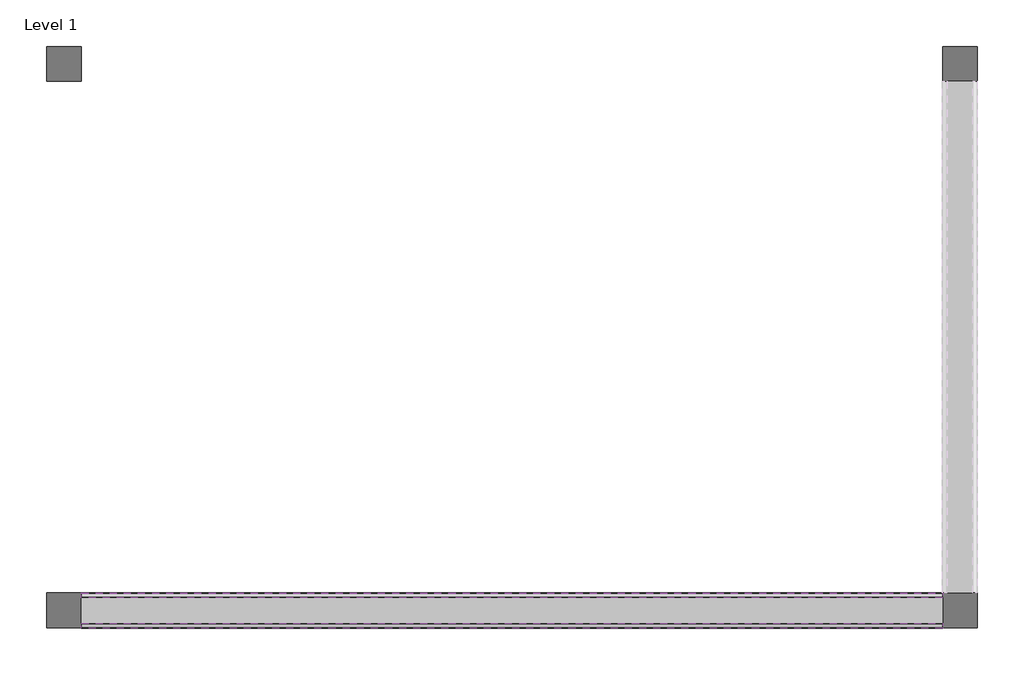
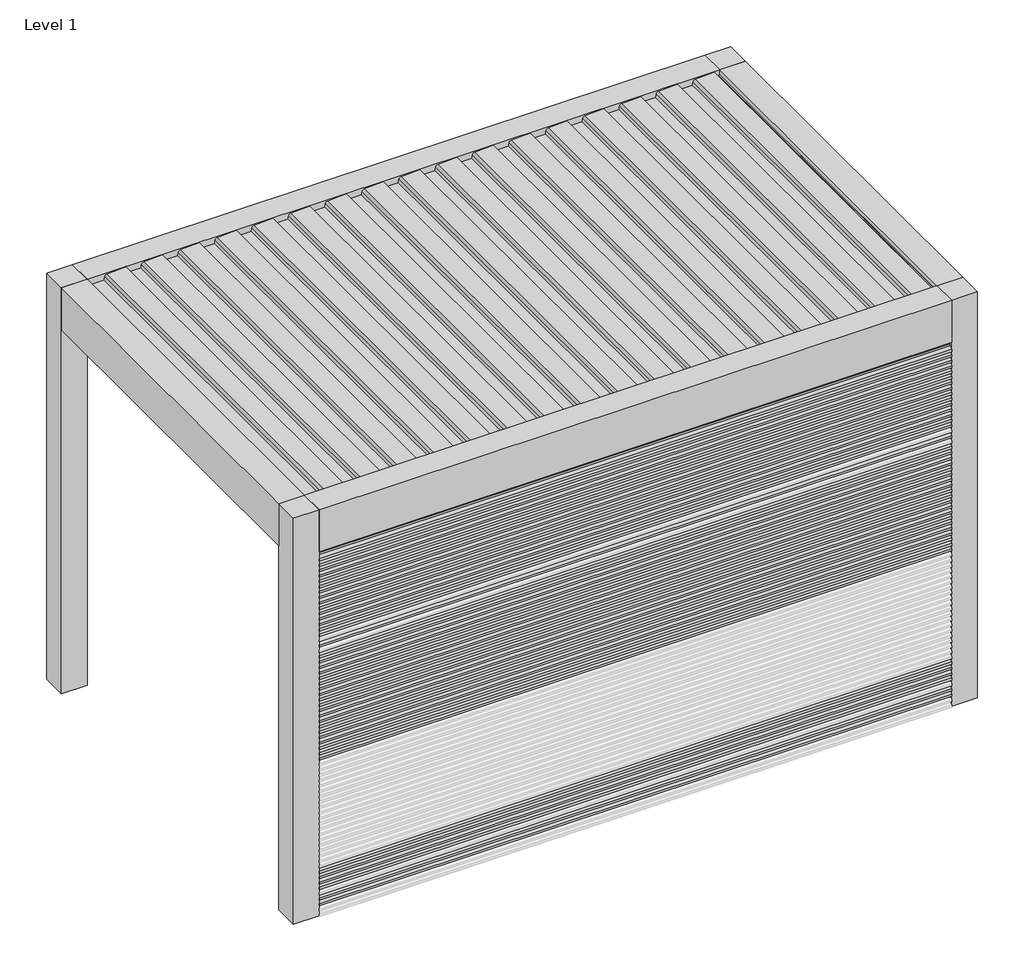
# One storey, part 65 of 69: 85 proxies.
"""IFC4 building model written with IfcOpenShell, lengths in millimetres."""

from ifc_helpers import new_model, si_unit, frame, origin, place, context, project, spatial, polyline, outline, extrude, transform, mapped, element, save
from components import generic_models_9b0df196

model = new_model("IFC4")

# Units and contexts
model_context = context("Model", 3, world=origin())
ifc_project = project(units=[si_unit("LENGTHUNIT", "METRE", prefix="MILLI")], contexts=[model_context])

# Site, building, storey
site = spatial("IfcSite", under=ifc_project)
building = spatial("IfcBuilding", under=site)
storey = spatial("IfcBuildingStorey", under=building, Name="Level 1", Elevation=0.0)

# Proxies
placement = place(None, origin())
element("IfcBuildingElementProxy", 1, Name="Wall Sweeps", at=placement, inside=storey, context=model_context, shape_type="SweptSolid", body=[
    extrude(outline(polyline([(39520.7593685, 975.0), (39539.9093685, 986.0562577), (39539.9093685, 999.0), (39541.1593685, 999.0), (39541.1593685, 985.3345698), (39522.0093685, 974.2782281), (39522.0093685, 962.2216933), (39520.7593685, 961.5), (39520.7593685, 975.0)])), frame((224550.5749426, 0.0, 0.0), z_axis=(1.0, 0.0, 0.0), x_axis=(0.0, 1.0, 0.0)), (0.0, 0.0, 1.0), 3700.0),
])
element("IfcBuildingElementProxy", 2, Name="Wall Sweeps", at=placement, inside=storey, context=model_context, shape_type="SweptSolid", body=[
    extrude(outline(polyline([(39672.5593685, 975.9), (39672.5593685, 962.4), (39671.3093685, 963.1216933), (39671.3093685, 975.1782281), (39652.1593685, 986.2345698), (39652.1593685, 999.9), (39653.4093685, 999.9), (39653.4093685, 986.9562577), (39672.5593685, 975.9)])), frame((224550.5749426, 0.0, 0.0), z_axis=(1.0, 0.0, 0.0), x_axis=(0.0, 1.0, 0.0)), (0.0, 0.0, 1.0), 3700.0),
])
element("IfcBuildingElementProxy", 3, Name="Wall Sweeps", at=placement, inside=storey, context=model_context, shape_type="SweptSolid", body=[
    extrude(outline(polyline([(39520.7593685, 76.0), (39539.9093685, 87.0562577), (39539.9093685, 100.0), (39541.1593685, 100.0), (39541.1593685, 86.3345698), (39522.0093685, 75.2782281), (39522.0093685, 63.2216933), (39520.7593685, 62.5), (39520.7593685, 76.0)])), frame((224550.5749426, 0.0, 0.0), z_axis=(1.0, 0.0, 0.0), x_axis=(0.0, 1.0, 0.0)), (0.0, 0.0, 1.0), 3700.0),
])
element("IfcBuildingElementProxy", 4, Name="Wall Sweeps", at=placement, inside=storey, context=model_context, shape_type="SweptSolid", body=[
    extrude(outline(polyline([(39672.5593685, 76.0), (39672.5593685, 62.5), (39671.3093685, 63.2216933), (39671.3093685, 75.2782281), (39652.1593685, 86.3345698), (39652.1593685, 100.0), (39653.4093685, 100.0), (39653.4093685, 87.0562577), (39672.5593685, 76.0)])), frame((224550.5749426, 0.0, 0.0), z_axis=(1.0, 0.0, 0.0), x_axis=(0.0, 1.0, 0.0)), (0.0, 0.0, 1.0), 3700.0),
])
element("IfcBuildingElementProxy", 5, Name="Wall Sweeps", at=placement, inside=storey, context=model_context, shape_type="SweptSolid", body=[
    extrude(outline(polyline([(39520.7593685, 1008.3), (39539.9093685, 1019.3562577), (39539.9093685, 1032.3), (39541.1593685, 1032.3), (39541.1593685, 1018.6345698), (39522.0093685, 1007.5782281), (39522.0093685, 995.5216933), (39520.7593685, 994.8), (39520.7593685, 1008.3)])), frame((224550.5749426, 0.0, 0.0), z_axis=(1.0, 0.0, 0.0), x_axis=(0.0, 1.0, 0.0)), (0.0, 0.0, 1.0), 3700.0),
])
element("IfcBuildingElementProxy", 6, Name="Wall Sweeps", at=placement, inside=storey, context=model_context, shape_type="SweptSolid", body=[
    extrude(outline(polyline([(39672.5593685, 1009.2), (39672.5593685, 995.7), (39671.3093685, 996.4216933), (39671.3093685, 1008.4782281), (39652.1593685, 1019.5345698), (39652.1593685, 1033.2), (39653.4093685, 1033.2), (39653.4093685, 1020.2562577), (39672.5593685, 1009.2)])), frame((224550.5749426, 0.0, 0.0), z_axis=(1.0, 0.0, 0.0), x_axis=(0.0, 1.0, 0.0)), (0.0, 0.0, 1.0), 3700.0),
])
element("IfcBuildingElementProxy", 7, Name="Wall Sweeps", at=placement, inside=storey, context=model_context, shape_type="SweptSolid", body=[
    extrude(outline(polyline([(39520.7593685, 1041.6), (39539.9093685, 1052.6562577), (39539.9093685, 1065.6), (39541.1593685, 1065.6), (39541.1593685, 1051.9345698), (39522.0093685, 1040.8782281), (39522.0093685, 1028.8216933), (39520.7593685, 1028.1), (39520.7593685, 1041.6)])), frame((224550.5749426, 0.0, 0.0), z_axis=(1.0, 0.0, 0.0), x_axis=(0.0, 1.0, 0.0)), (0.0, 0.0, 1.0), 3700.0),
])
element("IfcBuildingElementProxy", 8, Name="Wall Sweeps", at=placement, inside=storey, context=model_context, shape_type="SweptSolid", body=[
    extrude(outline(polyline([(39672.5593685, 1042.6), (39672.5593685, 1029.1), (39671.3093685, 1029.8216933), (39671.3093685, 1041.8782281), (39652.1593685, 1052.9345698), (39652.1593685, 1066.6), (39653.4093685, 1066.6), (39653.4093685, 1053.6562577), (39672.5593685, 1042.6)])), frame((224550.5749426, 0.0, 0.0), z_axis=(1.0, 0.0, 0.0), x_axis=(0.0, 1.0, 0.0)), (0.0, 0.0, 1.0), 3700.0),
])
element("IfcBuildingElementProxy", 9, Name="Wall Sweeps", at=placement, inside=storey, context=model_context, shape_type="SweptSolid", body=[
    extrude(outline(polyline([(39520.7593685, 1074.9), (39539.9093685, 1085.9562577), (39539.9093685, 1098.9), (39541.1593685, 1098.9), (39541.1593685, 1085.2345698), (39522.0093685, 1074.1782281), (39522.0093685, 1062.1216933), (39520.7593685, 1061.4), (39520.7593685, 1074.9)])), frame((224550.5749426, 0.0, 0.0), z_axis=(1.0, 0.0, 0.0), x_axis=(0.0, 1.0, 0.0)), (0.0, 0.0, 1.0), 3700.0),
])
element("IfcBuildingElementProxy", 10, Name="Wall Sweeps", at=placement, inside=storey, context=model_context, shape_type="SweptSolid", body=[
    extrude(outline(polyline([(39520.7593685, 1108.2), (39539.9093685, 1119.2562577), (39539.9093685, 1132.2), (39541.1593685, 1132.2), (39541.1593685, 1118.5345698), (39522.0093685, 1107.4782281), (39522.0093685, 1095.4216933), (39520.7593685, 1094.7), (39520.7593685, 1108.2)])), frame((224550.5749426, 0.0, 0.0), z_axis=(1.0, 0.0, 0.0), x_axis=(0.0, 1.0, 0.0)), (0.0, 0.0, 1.0), 3700.0),
])
element("IfcBuildingElementProxy", 11, Name="Wall Sweeps", at=placement, inside=storey, context=model_context, shape_type="SweptSolid", body=[
    extrude(outline(polyline([(39672.5593685, 1109.2), (39672.5593685, 1095.7), (39671.3093685, 1096.4216933), (39671.3093685, 1108.4782281), (39652.1593685, 1119.5345698), (39652.1593685, 1133.2), (39653.4093685, 1133.2), (39653.4093685, 1120.2562577), (39672.5593685, 1109.2)])), frame((224550.5749426, 0.0, 0.0), z_axis=(1.0, 0.0, 0.0), x_axis=(0.0, 1.0, 0.0)), (0.0, 0.0, 1.0), 3700.0),
])
element("IfcBuildingElementProxy", 12, Name="Wall Sweeps", at=placement, inside=storey, context=model_context, shape_type="SweptSolid", body=[
    extrude(outline(polyline([(39520.7593685, 1141.5), (39539.9093685, 1152.5562577), (39539.9093685, 1165.5), (39541.1593685, 1165.5), (39541.1593685, 1151.8345698), (39522.0093685, 1140.7782281), (39522.0093685, 1128.7216933), (39520.7593685, 1128.0), (39520.7593685, 1141.5)])), frame((224550.5749426, 0.0, 0.0), z_axis=(1.0, 0.0, 0.0), x_axis=(0.0, 1.0, 0.0)), (0.0, 0.0, 1.0), 3700.0),
])
element("IfcBuildingElementProxy", 13, Name="Wall Sweeps", at=placement, inside=storey, context=model_context, shape_type="SweptSolid", body=[
    extrude(outline(polyline([(39672.5593685, 1142.6), (39672.5593685, 1129.1), (39671.3093685, 1129.8216933), (39671.3093685, 1141.8782281), (39652.1593685, 1152.9345698), (39652.1593685, 1166.6), (39653.4093685, 1166.6), (39653.4093685, 1153.6562577), (39672.5593685, 1142.6)])), frame((224550.5749426, 0.0, 0.0), z_axis=(1.0, 0.0, 0.0), x_axis=(0.0, 1.0, 0.0)), (0.0, 0.0, 1.0), 3700.0),
])
element("IfcBuildingElementProxy", 14, Name="Wall Sweeps", at=placement, inside=storey, context=model_context, shape_type="SweptSolid", body=[
    extrude(outline(polyline([(39520.7593685, 1174.8), (39539.9093685, 1185.8562577), (39539.9093685, 1198.8), (39541.1593685, 1198.8), (39541.1593685, 1185.1345698), (39522.0093685, 1174.0782281), (39522.0093685, 1162.0216933), (39520.7593685, 1161.3), (39520.7593685, 1174.8)])), frame((224550.5749426, 0.0, 0.0), z_axis=(1.0, 0.0, 0.0), x_axis=(0.0, 1.0, 0.0)), (0.0, 0.0, 1.0), 3700.0),
])
element("IfcBuildingElementProxy", 15, Name="Wall Sweeps", at=placement, inside=storey, context=model_context, shape_type="SweptSolid", body=[
    extrude(outline(polyline([(39672.5593685, 1175.9), (39672.5593685, 1162.4), (39671.3093685, 1163.1216933), (39671.3093685, 1175.1782281), (39652.1593685, 1186.2345698), (39652.1593685, 1199.9), (39653.4093685, 1199.9), (39653.4093685, 1186.9562577), (39672.5593685, 1175.9)])), frame((224550.5749426, 0.0, 0.0), z_axis=(1.0, 0.0, 0.0), x_axis=(0.0, 1.0, 0.0)), (0.0, 0.0, 1.0), 3700.0),
])
element("IfcBuildingElementProxy", 16, Name="Wall Sweeps", at=placement, inside=storey, context=model_context, shape_type="SweptSolid", body=[
    extrude(outline(polyline([(39520.7593685, 1208.1), (39539.9093685, 1219.1562577), (39539.9093685, 1232.1), (39541.1593685, 1232.1), (39541.1593685, 1218.4345698), (39522.0093685, 1207.3782281), (39522.0093685, 1195.3216933), (39520.7593685, 1194.6), (39520.7593685, 1208.1)])), frame((224550.5749426, 0.0, 0.0), z_axis=(1.0, 0.0, 0.0), x_axis=(0.0, 1.0, 0.0)), (0.0, 0.0, 1.0), 3700.0),
])
element("IfcBuildingElementProxy", 17, Name="Wall Sweeps", at=placement, inside=storey, context=model_context, shape_type="SweptSolid", body=[
    extrude(outline(polyline([(39672.5593685, 1209.2), (39672.5593685, 1195.7), (39671.3093685, 1196.4216933), (39671.3093685, 1208.4782281), (39652.1593685, 1219.5345698), (39652.1593685, 1233.2), (39653.4093685, 1233.2), (39653.4093685, 1220.2562577), (39672.5593685, 1209.2)])), frame((224550.5749426, 0.0, 0.0), z_axis=(1.0, 0.0, 0.0), x_axis=(0.0, 1.0, 0.0)), (0.0, 0.0, 1.0), 3700.0),
])
element("IfcBuildingElementProxy", 18, Name="Wall Sweeps", at=placement, inside=storey, context=model_context, shape_type="SweptSolid", body=[
    extrude(outline(polyline([(39520.7593685, 1241.4), (39539.9093685, 1252.4562577), (39539.9093685, 1265.4), (39541.1593685, 1265.4), (39541.1593685, 1251.7345698), (39522.0093685, 1240.6782281), (39522.0093685, 1228.6216933), (39520.7593685, 1227.9), (39520.7593685, 1241.4)])), frame((224550.5749426, 0.0, 0.0), z_axis=(1.0, 0.0, 0.0), x_axis=(0.0, 1.0, 0.0)), (0.0, 0.0, 1.0), 3700.0),
])
element("IfcBuildingElementProxy", 19, Name="Wall Sweeps", at=placement, inside=storey, context=model_context, shape_type="SweptSolid", body=[
    extrude(outline(polyline([(39672.5593685, 1242.5), (39672.5593685, 1229.0), (39671.3093685, 1229.7216933), (39671.3093685, 1241.7782281), (39652.1593685, 1252.8345698), (39652.1593685, 1266.5), (39653.4093685, 1266.5), (39653.4093685, 1253.5562577), (39672.5593685, 1242.5)])), frame((224550.5749426, 0.0, 0.0), z_axis=(1.0, 0.0, 0.0), x_axis=(0.0, 1.0, 0.0)), (0.0, 0.0, 1.0), 3700.0),
])
element("IfcBuildingElementProxy", 20, Name="Wall Sweeps", at=placement, inside=storey, context=model_context, shape_type="SweptSolid", body=[
    extrude(outline(polyline([(39520.7593685, 1274.7), (39539.9093685, 1285.7562577), (39539.9093685, 1298.7), (39541.1593685, 1298.7), (39541.1593685, 1285.0345698), (39522.0093685, 1273.9782281), (39522.0093685, 1261.9216933), (39520.7593685, 1261.2), (39520.7593685, 1274.7)])), frame((224550.5749426, 0.0, 0.0), z_axis=(1.0, 0.0, 0.0), x_axis=(0.0, 1.0, 0.0)), (0.0, 0.0, 1.0), 3700.0),
])
element("IfcBuildingElementProxy", 21, Name="Wall Sweeps", at=placement, inside=storey, context=model_context, shape_type="SweptSolid", body=[
    extrude(outline(polyline([(39672.5593685, 1275.9), (39672.5593685, 1262.4), (39671.3093685, 1263.1216933), (39671.3093685, 1275.1782281), (39652.1593685, 1286.2345698), (39652.1593685, 1299.9), (39653.4093685, 1299.9), (39653.4093685, 1286.9562577), (39672.5593685, 1275.9)])), frame((224550.5749426, 0.0, 0.0), z_axis=(1.0, 0.0, 0.0), x_axis=(0.0, 1.0, 0.0)), (0.0, 0.0, 1.0), 3700.0),
])
element("IfcBuildingElementProxy", 22, Name="Wall Sweeps", at=placement, inside=storey, context=model_context, shape_type="SweptSolid", body=[
    extrude(outline(polyline([(39520.7593685, 1308.0), (39539.9093685, 1319.0562577), (39539.9093685, 1332.0), (39541.1593685, 1332.0), (39541.1593685, 1318.3345698), (39522.0093685, 1307.2782281), (39522.0093685, 1295.2216933), (39520.7593685, 1294.5), (39520.7593685, 1308.0)])), frame((224550.5749426, 0.0, 0.0), z_axis=(1.0, 0.0, 0.0), x_axis=(0.0, 1.0, 0.0)), (0.0, 0.0, 1.0), 3700.0),
])
element("IfcBuildingElementProxy", 23, Name="Wall Sweeps", at=placement, inside=storey, context=model_context, shape_type="SweptSolid", body=[
    extrude(outline(polyline([(39520.7593685, 109.2), (39539.9093685, 120.2562577), (39539.9093685, 133.2), (39541.1593685, 133.2), (39541.1593685, 119.5345698), (39522.0093685, 108.4782281), (39522.0093685, 96.4216933), (39520.7593685, 95.7), (39520.7593685, 109.2)])), frame((224550.5749426, 0.0, 0.0), z_axis=(1.0, 0.0, 0.0), x_axis=(0.0, 1.0, 0.0)), (0.0, 0.0, 1.0), 3700.0),
])
element("IfcBuildingElementProxy", 24, Name="Wall Sweeps", at=placement, inside=storey, context=model_context, shape_type="SweptSolid", body=[
    extrude(outline(polyline([(39672.5593685, 109.3), (39672.5593685, 95.8), (39671.3093685, 96.5216933), (39671.3093685, 108.5782281), (39652.1593685, 119.6345698), (39652.1593685, 133.3), (39653.4093685, 133.3), (39653.4093685, 120.3562577), (39672.5593685, 109.3)])), frame((224550.5749426, 0.0, 0.0), z_axis=(1.0, 0.0, 0.0), x_axis=(0.0, 1.0, 0.0)), (0.0, 0.0, 1.0), 3700.0),
])
element("IfcBuildingElementProxy", 25, Name="Wall Sweeps", at=placement, inside=storey, context=model_context, shape_type="SweptSolid", body=[
    extrude(outline(polyline([(39672.5593685, 1309.2), (39672.5593685, 1295.7), (39671.3093685, 1296.4216933), (39671.3093685, 1308.4782281), (39652.1593685, 1319.5345698), (39652.1593685, 1333.2), (39653.4093685, 1333.2), (39653.4093685, 1320.2562577), (39672.5593685, 1309.2)])), frame((224550.5749426, 0.0, 0.0), z_axis=(1.0, 0.0, 0.0), x_axis=(0.0, 1.0, 0.0)), (0.0, 0.0, 1.0), 3700.0),
])
element("IfcBuildingElementProxy", 26, Name="Wall Sweeps", at=placement, inside=storey, context=model_context, shape_type="SweptSolid", body=[
    extrude(outline(polyline([(39520.7593685, 1341.3), (39539.9093685, 1352.3562577), (39539.9093685, 1365.3), (39541.1593685, 1365.3), (39541.1593685, 1351.6345698), (39522.0093685, 1340.5782281), (39522.0093685, 1328.5216933), (39520.7593685, 1327.8), (39520.7593685, 1341.3)])), frame((224550.5749426, 0.0, 0.0), z_axis=(1.0, 0.0, 0.0), x_axis=(0.0, 1.0, 0.0)), (0.0, 0.0, 1.0), 3700.0),
])
element("IfcBuildingElementProxy", 27, Name="Wall Sweeps", at=placement, inside=storey, context=model_context, shape_type="SweptSolid", body=[
    extrude(outline(polyline([(39672.5593685, 1342.5), (39672.5593685, 1329.0), (39671.3093685, 1329.7216933), (39671.3093685, 1341.7782281), (39652.1593685, 1352.8345698), (39652.1593685, 1366.5), (39653.4093685, 1366.5), (39653.4093685, 1353.5562577), (39672.5593685, 1342.5)])), frame((224550.5749426, 0.0, 0.0), z_axis=(1.0, 0.0, 0.0), x_axis=(0.0, 1.0, 0.0)), (0.0, 0.0, 1.0), 3700.0),
])
element("IfcBuildingElementProxy", 28, Name="Wall Sweeps", at=placement, inside=storey, context=model_context, shape_type="SweptSolid", body=[
    extrude(outline(polyline([(39520.7593685, 1374.6), (39539.9093685, 1385.6562577), (39539.9093685, 1398.6), (39541.1593685, 1398.6), (39541.1593685, 1384.9345698), (39522.0093685, 1373.8782281), (39522.0093685, 1361.8216933), (39520.7593685, 1361.1), (39520.7593685, 1374.6)])), frame((224550.5749426, 0.0, 0.0), z_axis=(1.0, 0.0, 0.0), x_axis=(0.0, 1.0, 0.0)), (0.0, 0.0, 1.0), 3700.0),
])
element("IfcBuildingElementProxy", 29, Name="Wall Sweeps", at=placement, inside=storey, context=model_context, shape_type="SweptSolid", body=[
    extrude(outline(polyline([(39672.5593685, 1375.9), (39672.5593685, 1362.4), (39671.3093685, 1363.1216933), (39671.3093685, 1375.1782281), (39652.1593685, 1386.2345698), (39652.1593685, 1399.9), (39653.4093685, 1399.9), (39653.4093685, 1386.9562577), (39672.5593685, 1375.9)])), frame((224550.5749426, 0.0, 0.0), z_axis=(1.0, 0.0, 0.0), x_axis=(0.0, 1.0, 0.0)), (0.0, 0.0, 1.0), 3700.0),
])
element("IfcBuildingElementProxy", 30, Name="Wall Sweeps", at=placement, inside=storey, context=model_context, shape_type="SweptSolid", body=[
    extrude(outline(polyline([(39520.7593685, 1407.9), (39539.9093685, 1418.9562577), (39539.9093685, 1431.9), (39541.1593685, 1431.9), (39541.1593685, 1418.2345698), (39522.0093685, 1407.1782281), (39522.0093685, 1395.1216933), (39520.7593685, 1394.4), (39520.7593685, 1407.9)])), frame((224550.5749426, 0.0, 0.0), z_axis=(1.0, 0.0, 0.0), x_axis=(0.0, 1.0, 0.0)), (0.0, 0.0, 1.0), 3700.0),
])
element("IfcBuildingElementProxy", 31, Name="Wall Sweeps", at=placement, inside=storey, context=model_context, shape_type="SweptSolid", body=[
    extrude(outline(polyline([(39520.7593685, 1441.2), (39539.9093685, 1452.2562577), (39539.9093685, 1465.2), (39541.1593685, 1465.2), (39541.1593685, 1451.5345698), (39522.0093685, 1440.4782281), (39522.0093685, 1428.4216933), (39520.7593685, 1427.7), (39520.7593685, 1441.2)])), frame((224550.5749426, 0.0, 0.0), z_axis=(1.0, 0.0, 0.0), x_axis=(0.0, 1.0, 0.0)), (0.0, 0.0, 1.0), 3700.0),
])
element("IfcBuildingElementProxy", 32, Name="Wall Sweeps", at=placement, inside=storey, context=model_context, shape_type="SweptSolid", body=[
    extrude(outline(polyline([(39672.5593685, 1442.5), (39672.5593685, 1429.0), (39671.3093685, 1429.7216933), (39671.3093685, 1441.7782281), (39652.1593685, 1452.8345698), (39652.1593685, 1466.5), (39653.4093685, 1466.5), (39653.4093685, 1453.5562577), (39672.5593685, 1442.5)])), frame((224550.5749426, 0.0, 0.0), z_axis=(1.0, 0.0, 0.0), x_axis=(0.0, 1.0, 0.0)), (0.0, 0.0, 1.0), 3700.0),
])
element("IfcBuildingElementProxy", 33, Name="Wall Sweeps", at=placement, inside=storey, context=model_context, shape_type="SweptSolid", body=[
    extrude(outline(polyline([(39520.7593685, 1474.5), (39539.9093685, 1485.5562577), (39539.9093685, 1498.5), (39541.1593685, 1498.5), (39541.1593685, 1484.8345698), (39522.0093685, 1473.7782281), (39522.0093685, 1461.7216933), (39520.7593685, 1461.0), (39520.7593685, 1474.5)])), frame((224550.5749426, 0.0, 0.0), z_axis=(1.0, 0.0, 0.0), x_axis=(0.0, 1.0, 0.0)), (0.0, 0.0, 1.0), 3700.0),
])
element("IfcBuildingElementProxy", 34, Name="Wall Sweeps", at=placement, inside=storey, context=model_context, shape_type="SweptSolid", body=[
    extrude(outline(polyline([(39672.5593685, 1474.5), (39672.5593685, 1461.0), (39671.3093685, 1461.7216933), (39671.3093685, 1473.7782281), (39652.1593685, 1484.8345698), (39652.1593685, 1498.5), (39653.4093685, 1498.5), (39653.4093685, 1485.5562577), (39672.5593685, 1474.5)])), frame((224550.5749426, 0.0, 0.0), z_axis=(1.0, 0.0, 0.0), x_axis=(0.0, 1.0, 0.0)), (0.0, 0.0, 1.0), 3700.0),
])
element("IfcBuildingElementProxy", 35, Name="Wall Sweeps", at=placement, inside=storey, context=model_context, shape_type="SweptSolid", body=[
    extrude(outline(polyline([(39520.7593685, 1507.8), (39539.9093685, 1518.8562577), (39539.9093685, 1531.8), (39541.1593685, 1531.8), (39541.1593685, 1518.1345698), (39522.0093685, 1507.0782281), (39522.0093685, 1495.0216933), (39520.7593685, 1494.3), (39520.7593685, 1507.8)])), frame((224550.5749426, 0.0, 0.0), z_axis=(1.0, 0.0, 0.0), x_axis=(0.0, 1.0, 0.0)), (0.0, 0.0, 1.0), 3700.0),
])
element("IfcBuildingElementProxy", 36, Name="Wall Sweeps", at=placement, inside=storey, context=model_context, shape_type="SweptSolid", body=[
    extrude(outline(polyline([(39672.5593685, 1507.8), (39672.5593685, 1494.3), (39671.3093685, 1495.0216933), (39671.3093685, 1507.0782281), (39652.1593685, 1518.1345698), (39652.1593685, 1531.8), (39653.4093685, 1531.8), (39653.4093685, 1518.8562577), (39672.5593685, 1507.8)])), frame((224550.5749426, 0.0, 0.0), z_axis=(1.0, 0.0, 0.0), x_axis=(0.0, 1.0, 0.0)), (0.0, 0.0, 1.0), 3700.0),
])
element("IfcBuildingElementProxy", 37, Name="Wall Sweeps", at=placement, inside=storey, context=model_context, shape_type="SweptSolid", body=[
    extrude(outline(polyline([(39520.7593685, 1541.1), (39539.9093685, 1552.1562577), (39539.9093685, 1565.1), (39541.1593685, 1565.1), (39541.1593685, 1551.4345698), (39522.0093685, 1540.3782281), (39522.0093685, 1528.3216933), (39520.7593685, 1527.6), (39520.7593685, 1541.1)])), frame((224550.5749426, 0.0, 0.0), z_axis=(1.0, 0.0, 0.0), x_axis=(0.0, 1.0, 0.0)), (0.0, 0.0, 1.0), 3700.0),
])
element("IfcBuildingElementProxy", 38, Name="Wall Sweeps", at=placement, inside=storey, context=model_context, shape_type="SweptSolid", body=[
    extrude(outline(polyline([(39672.5593685, 1541.1), (39672.5593685, 1527.6), (39671.3093685, 1528.3216933), (39671.3093685, 1540.3782281), (39652.1593685, 1551.4345698), (39652.1593685, 1565.1), (39653.4093685, 1565.1), (39653.4093685, 1552.1562577), (39672.5593685, 1541.1)])), frame((224550.5749426, 0.0, 0.0), z_axis=(1.0, 0.0, 0.0), x_axis=(0.0, 1.0, 0.0)), (0.0, 0.0, 1.0), 3700.0),
])
element("IfcBuildingElementProxy", 39, Name="Wall Sweeps", at=placement, inside=storey, context=model_context, shape_type="SweptSolid", body=[
    extrude(outline(polyline([(39520.7593685, 1574.4), (39539.9093685, 1585.4562577), (39539.9093685, 1598.4), (39541.1593685, 1598.4), (39541.1593685, 1584.7345698), (39522.0093685, 1573.6782281), (39522.0093685, 1561.6216933), (39520.7593685, 1560.9), (39520.7593685, 1574.4)])), frame((224550.5749426, 0.0, 0.0), z_axis=(1.0, 0.0, 0.0), x_axis=(0.0, 1.0, 0.0)), (0.0, 0.0, 1.0), 3700.0),
])
element("IfcBuildingElementProxy", 40, Name="Wall Sweeps", at=placement, inside=storey, context=model_context, shape_type="SweptSolid", body=[
    extrude(outline(polyline([(39672.5593685, 1574.4), (39672.5593685, 1560.9), (39671.3093685, 1561.6216933), (39671.3093685, 1573.6782281), (39652.1593685, 1584.7345698), (39652.1593685, 1598.4), (39653.4093685, 1598.4), (39653.4093685, 1585.4562577), (39672.5593685, 1574.4)])), frame((224550.5749426, 0.0, 0.0), z_axis=(1.0, 0.0, 0.0), x_axis=(0.0, 1.0, 0.0)), (0.0, 0.0, 1.0), 3700.0),
])
element("IfcBuildingElementProxy", 41, Name="Wall Sweeps", at=placement, inside=storey, context=model_context, shape_type="SweptSolid", body=[
    extrude(outline(polyline([(39520.7593685, 1607.7), (39539.9093685, 1618.7562577), (39539.9093685, 1631.7), (39541.1593685, 1631.7), (39541.1593685, 1618.0345698), (39522.0093685, 1606.9782281), (39522.0093685, 1594.9216933), (39520.7593685, 1594.2), (39520.7593685, 1607.7)])), frame((224550.5749426, 0.0, 0.0), z_axis=(1.0, 0.0, 0.0), x_axis=(0.0, 1.0, 0.0)), (0.0, 0.0, 1.0), 3700.0),
])
element("IfcBuildingElementProxy", 42, Name="Wall Sweeps", at=placement, inside=storey, context=model_context, shape_type="SweptSolid", body=[
    extrude(outline(polyline([(39672.5593685, 1607.7), (39672.5593685, 1594.2), (39671.3093685, 1594.9216933), (39671.3093685, 1606.9782281), (39652.1593685, 1618.0345698), (39652.1593685, 1631.7), (39653.4093685, 1631.7), (39653.4093685, 1618.7562577), (39672.5593685, 1607.7)])), frame((224550.5749426, 0.0, 0.0), z_axis=(1.0, 0.0, 0.0), x_axis=(0.0, 1.0, 0.0)), (0.0, 0.0, 1.0), 3700.0),
])
element("IfcBuildingElementProxy", 43, Name="Wall Sweeps", at=placement, inside=storey, context=model_context, shape_type="SweptSolid", body=[
    extrude(outline(polyline([(39672.5593685, 142.7), (39672.5593685, 129.2), (39671.3093685, 129.9216933), (39671.3093685, 141.9782281), (39652.1593685, 153.0345698), (39652.1593685, 166.7), (39653.4093685, 166.7), (39653.4093685, 153.7562577), (39672.5593685, 142.7)])), frame((224550.5749426, 0.0, 0.0), z_axis=(1.0, 0.0, 0.0), x_axis=(0.0, 1.0, 0.0)), (0.0, 0.0, 1.0), 3700.0),
])
element("IfcBuildingElementProxy", 44, Name="Wall Sweeps", at=placement, inside=storey, context=model_context, shape_type="SweptSolid", body=[
    extrude(outline(polyline([(39520.7593685, 1674.3), (39539.9093685, 1685.3562577), (39539.9093685, 1698.3), (39541.1593685, 1698.3), (39541.1593685, 1684.6345698), (39522.0093685, 1673.5782281), (39522.0093685, 1661.5216933), (39520.7593685, 1660.8), (39520.7593685, 1674.3)])), frame((224550.5749426, 0.0, 0.0), z_axis=(1.0, 0.0, 0.0), x_axis=(0.0, 1.0, 0.0)), (0.0, 0.0, 1.0), 3700.0),
])
element("IfcBuildingElementProxy", 45, Name="Wall Sweeps", at=placement, inside=storey, context=model_context, shape_type="SweptSolid", body=[
    extrude(outline(polyline([(39672.5593685, 1674.3), (39672.5593685, 1660.8), (39671.3093685, 1661.5216933), (39671.3093685, 1673.5782281), (39652.1593685, 1684.6345698), (39652.1593685, 1698.3), (39653.4093685, 1698.3), (39653.4093685, 1685.3562577), (39672.5593685, 1674.3)])), frame((224550.5749426, 0.0, 0.0), z_axis=(1.0, 0.0, 0.0), x_axis=(0.0, 1.0, 0.0)), (0.0, 0.0, 1.0), 3700.0),
])
element("IfcBuildingElementProxy", 46, Name="Wall Sweeps", at=placement, inside=storey, context=model_context, shape_type="SweptSolid", body=[
    extrude(outline(polyline([(39672.5593685, 1707.7), (39672.5593685, 1694.2), (39671.3093685, 1694.9216933), (39671.3093685, 1706.9782281), (39652.1593685, 1718.0345698), (39652.1593685, 1731.7), (39653.4093685, 1731.7), (39653.4093685, 1718.7562577), (39672.5593685, 1707.7)])), frame((224550.5749426, 0.0, 0.0), z_axis=(1.0, 0.0, 0.0), x_axis=(0.0, 1.0, 0.0)), (0.0, 0.0, 1.0), 3700.0),
])
element("IfcBuildingElementProxy", 47, Name="Wall Sweeps", at=placement, inside=storey, context=model_context, shape_type="SweptSolid", body=[
    extrude(outline(polyline([(39520.7593685, 1740.9), (39539.9093685, 1751.9562577), (39539.9093685, 1764.9), (39541.1593685, 1764.9), (39541.1593685, 1751.2345698), (39522.0093685, 1740.1782281), (39522.0093685, 1728.1216933), (39520.7593685, 1727.4), (39520.7593685, 1740.9)])), frame((224550.5749426, 0.0, 0.0), z_axis=(1.0, 0.0, 0.0), x_axis=(0.0, 1.0, 0.0)), (0.0, 0.0, 1.0), 3700.0),
])
element("IfcBuildingElementProxy", 48, Name="Wall Sweeps", at=placement, inside=storey, context=model_context, shape_type="SweptSolid", body=[
    extrude(outline(polyline([(39672.5593685, 1740.9), (39672.5593685, 1727.4), (39671.3093685, 1728.1216933), (39671.3093685, 1740.1782281), (39652.1593685, 1751.2345698), (39652.1593685, 1764.9), (39653.4093685, 1764.9), (39653.4093685, 1751.9562577), (39672.5593685, 1740.9)])), frame((224550.5749426, 0.0, 0.0), z_axis=(1.0, 0.0, 0.0), x_axis=(0.0, 1.0, 0.0)), (0.0, 0.0, 1.0), 3700.0),
])
element("IfcBuildingElementProxy", 49, Name="Wall Sweeps", at=placement, inside=storey, context=model_context, shape_type="SweptSolid", body=[
    extrude(outline(polyline([(39520.7593685, 1774.2), (39539.9093685, 1785.2562577), (39539.9093685, 1798.2), (39541.1593685, 1798.2), (39541.1593685, 1784.5345698), (39522.0093685, 1773.4782281), (39522.0093685, 1761.4216933), (39520.7593685, 1760.7), (39520.7593685, 1774.2)])), frame((224550.5749426, 0.0, 0.0), z_axis=(1.0, 0.0, 0.0), x_axis=(0.0, 1.0, 0.0)), (0.0, 0.0, 1.0), 3700.0),
])
element("IfcBuildingElementProxy", 50, Name="Wall Sweeps", at=placement, inside=storey, context=model_context, shape_type="SweptSolid", body=[
    extrude(outline(polyline([(39672.5593685, 1774.2), (39672.5593685, 1760.7), (39671.3093685, 1761.4216933), (39671.3093685, 1773.4782281), (39652.1593685, 1784.5345698), (39652.1593685, 1798.2), (39653.4093685, 1798.2), (39653.4093685, 1785.2562577), (39672.5593685, 1774.2)])), frame((224550.5749426, 0.0, 0.0), z_axis=(1.0, 0.0, 0.0), x_axis=(0.0, 1.0, 0.0)), (0.0, 0.0, 1.0), 3700.0),
])
element("IfcBuildingElementProxy", 51, Name="Wall Sweeps", at=placement, inside=storey, context=model_context, shape_type="SweptSolid", body=[
    extrude(outline(polyline([(39520.7593685, 1807.5), (39539.9093685, 1818.5562577), (39539.9093685, 1831.5), (39541.1593685, 1831.5), (39541.1593685, 1817.8345698), (39522.0093685, 1806.7782281), (39522.0093685, 1794.7216933), (39520.7593685, 1794.0), (39520.7593685, 1807.5)])), frame((224550.5749426, 0.0, 0.0), z_axis=(1.0, 0.0, 0.0), x_axis=(0.0, 1.0, 0.0)), (0.0, 0.0, 1.0), 3700.0),
])
element("IfcBuildingElementProxy", 52, Name="Wall Sweeps", at=placement, inside=storey, context=model_context, shape_type="SweptSolid", body=[
    extrude(outline(polyline([(39672.5593685, 1807.5), (39672.5593685, 1794.0), (39671.3093685, 1794.7216933), (39671.3093685, 1806.7782281), (39652.1593685, 1817.8345698), (39652.1593685, 1831.5), (39653.4093685, 1831.5), (39653.4093685, 1818.5562577), (39672.5593685, 1807.5)])), frame((224550.5749426, 0.0, 0.0), z_axis=(1.0, 0.0, 0.0), x_axis=(0.0, 1.0, 0.0)), (0.0, 0.0, 1.0), 3700.0),
])
element("IfcBuildingElementProxy", 53, Name="Wall Sweeps", at=placement, inside=storey, context=model_context, shape_type="SweptSolid", body=[
    extrude(outline(polyline([(39520.7593685, 1840.8), (39539.9093685, 1851.8562577), (39539.9093685, 1864.8), (39541.1593685, 1864.8), (39541.1593685, 1851.1345698), (39522.0093685, 1840.0782281), (39522.0093685, 1828.0216933), (39520.7593685, 1827.3), (39520.7593685, 1840.8)])), frame((224550.5749426, 0.0, 0.0), z_axis=(1.0, 0.0, 0.0), x_axis=(0.0, 1.0, 0.0)), (0.0, 0.0, 1.0), 3700.0),
])
element("IfcBuildingElementProxy", 54, Name="Wall Sweeps", at=placement, inside=storey, context=model_context, shape_type="SweptSolid", body=[
    extrude(outline(polyline([(39672.5593685, 1840.8), (39672.5593685, 1827.3), (39671.3093685, 1828.0216933), (39671.3093685, 1840.0782281), (39652.1593685, 1851.1345698), (39652.1593685, 1864.8), (39653.4093685, 1864.8), (39653.4093685, 1851.8562577), (39672.5593685, 1840.8)])), frame((224550.5749426, 0.0, 0.0), z_axis=(1.0, 0.0, 0.0), x_axis=(0.0, 1.0, 0.0)), (0.0, 0.0, 1.0), 3700.0),
])
element("IfcBuildingElementProxy", 55, Name="Wall Sweeps", at=placement, inside=storey, context=model_context, shape_type="SweptSolid", body=[
    extrude(outline(polyline([(39520.7593685, 1874.1), (39539.9093685, 1885.1562577), (39539.9093685, 1898.1), (39541.1593685, 1898.1), (39541.1593685, 1884.4345698), (39522.0093685, 1873.3782281), (39522.0093685, 1861.3216933), (39520.7593685, 1860.6), (39520.7593685, 1874.1)])), frame((224550.5749426, 0.0, 0.0), z_axis=(1.0, 0.0, 0.0), x_axis=(0.0, 1.0, 0.0)), (0.0, 0.0, 1.0), 3700.0),
])
element("IfcBuildingElementProxy", 56, Name="Wall Sweeps", at=placement, inside=storey, context=model_context, shape_type="SweptSolid", body=[
    extrude(outline(polyline([(39672.5593685, 1874.1), (39672.5593685, 1860.6), (39671.3093685, 1861.3216933), (39671.3093685, 1873.3782281), (39652.1593685, 1884.4345698), (39652.1593685, 1898.1), (39653.4093685, 1898.1), (39653.4093685, 1885.1562577), (39672.5593685, 1874.1)])), frame((224550.5749426, 0.0, 0.0), z_axis=(1.0, 0.0, 0.0), x_axis=(0.0, 1.0, 0.0)), (0.0, 0.0, 1.0), 3700.0),
])
element("IfcBuildingElementProxy", 57, Name="Wall Sweeps", at=placement, inside=storey, context=model_context, shape_type="SweptSolid", body=[
    extrude(outline(polyline([(39520.7593685, 1907.4), (39539.9093685, 1918.4562577), (39539.9093685, 1931.4), (39541.1593685, 1931.4), (39541.1593685, 1917.7345698), (39522.0093685, 1906.6782281), (39522.0093685, 1894.6216933), (39520.7593685, 1893.9), (39520.7593685, 1907.4)])), frame((224550.5749426, 0.0, 0.0), z_axis=(1.0, 0.0, 0.0), x_axis=(0.0, 1.0, 0.0)), (0.0, 0.0, 1.0), 3700.0),
])
element("IfcBuildingElementProxy", 58, Name="Wall Sweeps", at=placement, inside=storey, context=model_context, shape_type="SweptSolid", body=[
    extrude(outline(polyline([(39672.5593685, 1907.4), (39672.5593685, 1893.9), (39671.3093685, 1894.6216933), (39671.3093685, 1906.6782281), (39652.1593685, 1917.7345698), (39652.1593685, 1931.4), (39653.4093685, 1931.4), (39653.4093685, 1918.4562577), (39672.5593685, 1907.4)])), frame((224550.5749426, 0.0, 0.0), z_axis=(1.0, 0.0, 0.0), x_axis=(0.0, 1.0, 0.0)), (0.0, 0.0, 1.0), 3700.0),
])
element("IfcBuildingElementProxy", 59, Name="Wall Sweeps", at=placement, inside=storey, context=model_context, shape_type="SweptSolid", body=[
    extrude(outline(polyline([(39520.7593685, 1940.7), (39539.9093685, 1951.7562577), (39539.9093685, 1964.7), (39541.1593685, 1964.7), (39541.1593685, 1951.0345698), (39522.0093685, 1939.9782281), (39522.0093685, 1927.9216933), (39520.7593685, 1927.2), (39520.7593685, 1940.7)])), frame((224550.5749426, 0.0, 0.0), z_axis=(1.0, 0.0, 0.0), x_axis=(0.0, 1.0, 0.0)), (0.0, 0.0, 1.0), 3700.0),
])
element("IfcBuildingElementProxy", 60, Name="Wall Sweeps", at=placement, inside=storey, context=model_context, shape_type="SweptSolid", body=[
    extrude(outline(polyline([(39671.5593685, 1940.7), (39671.5593685, 1927.2), (39670.3093685, 1927.9216933), (39670.3093685, 1939.9782281), (39651.1593685, 1951.0345698), (39651.1593685, 1964.7), (39652.4093685, 1964.7), (39652.4093685, 1951.7562577), (39671.5593685, 1940.7)])), frame((224550.5749426, 0.0, 0.0), z_axis=(1.0, 0.0, 0.0), x_axis=(0.0, 1.0, 0.0)), (0.0, 0.0, 1.0), 3700.0),
])
element("IfcBuildingElementProxy", 61, Name="Wall Sweeps", at=placement, inside=storey, context=model_context, shape_type="SweptSolid", body=[
    extrude(outline(polyline([(39520.7593685, 1974.0), (39539.9093685, 1985.0562577), (39539.9093685, 1998.0), (39541.1593685, 1998.0), (39541.1593685, 1984.3345698), (39522.0093685, 1973.2782281), (39522.0093685, 1961.2216933), (39520.7593685, 1960.5), (39520.7593685, 1974.0)])), frame((224550.5749426, 0.0, 0.0), z_axis=(1.0, 0.0, 0.0), x_axis=(0.0, 1.0, 0.0)), (0.0, 0.0, 1.0), 3700.0),
])
element("IfcBuildingElementProxy", 62, Name="Wall Sweeps", at=placement, inside=storey, context=model_context, shape_type="SweptSolid", body=[
    extrude(outline(polyline([(39672.5593685, 1974.0), (39672.5593685, 1960.5), (39671.3093685, 1961.2216933), (39671.3093685, 1973.2782281), (39652.1593685, 1984.3345698), (39652.1593685, 1998.0), (39653.4093685, 1998.0), (39653.4093685, 1985.0562577), (39672.5593685, 1974.0)])), frame((224550.5749426, 0.0, 0.0), z_axis=(1.0, 0.0, 0.0), x_axis=(0.0, 1.0, 0.0)), (0.0, 0.0, 1.0), 3700.0),
])
element("IfcBuildingElementProxy", 63, Name="Wall Sweeps", at=placement, inside=storey, context=model_context, shape_type="SweptSolid", body=[
    extrude(outline(polyline([(39520.7593685, 176.0), (39539.9093685, 187.0562577), (39539.9093685, 200.0), (39541.1593685, 200.0), (39541.1593685, 186.3345698), (39522.0093685, 175.2782281), (39522.0093685, 163.2216933), (39520.7593685, 162.5), (39520.7593685, 176.0)])), frame((224550.5749426, 0.0, 0.0), z_axis=(1.0, 0.0, 0.0), x_axis=(0.0, 1.0, 0.0)), (0.0, 0.0, 1.0), 3700.0),
])
element("IfcBuildingElementProxy", 64, Name="Wall Sweeps", at=placement, inside=storey, context=model_context, shape_type="SweptSolid", body=[
    extrude(outline(polyline([(39672.5593685, 176.0), (39672.5593685, 162.5), (39671.3093685, 163.2216933), (39671.3093685, 175.2782281), (39652.1593685, 186.3345698), (39652.1593685, 200.0), (39653.4093685, 200.0), (39653.4093685, 187.0562577), (39672.5593685, 176.0)])), frame((224550.5749426, 0.0, 0.0), z_axis=(1.0, 0.0, 0.0), x_axis=(0.0, 1.0, 0.0)), (0.0, 0.0, 1.0), 3700.0),
])
element("IfcBuildingElementProxy", 65, Name="Wall Sweeps", at=placement, inside=storey, context=model_context, shape_type="SweptSolid", body=[
    extrude(outline(polyline([(39520.7593685, 2007.3), (39539.9093685, 2018.3562577), (39539.9093685, 2031.3), (39541.1593685, 2031.3), (39541.1593685, 2017.6345698), (39522.0093685, 2006.5782281), (39522.0093685, 1994.5216933), (39520.7593685, 1993.8), (39520.7593685, 2007.3)])), frame((224550.5749426, 0.0, 0.0), z_axis=(1.0, 0.0, 0.0), x_axis=(0.0, 1.0, 0.0)), (0.0, 0.0, 1.0), 3700.0),
])
element("IfcBuildingElementProxy", 66, Name="Wall Sweeps", at=placement, inside=storey, context=model_context, shape_type="SweptSolid", body=[
    extrude(outline(polyline([(39672.5593685, 2007.3), (39672.5593685, 1993.8), (39671.3093685, 1994.5216933), (39671.3093685, 2006.5782281), (39652.1593685, 2017.6345698), (39652.1593685, 2031.3), (39653.4093685, 2031.3), (39653.4093685, 2018.3562577), (39672.5593685, 2007.3)])), frame((224550.5749426, 0.0, 0.0), z_axis=(1.0, 0.0, 0.0), x_axis=(0.0, 1.0, 0.0)), (0.0, 0.0, 1.0), 3700.0),
])
element("IfcBuildingElementProxy", 67, Name="Wall Sweeps", at=placement, inside=storey, context=model_context, shape_type="SweptSolid", body=[
    extrude(outline(polyline([(39520.7593685, 2040.6), (39539.9093685, 2051.6562577), (39539.9093685, 2064.6), (39541.1593685, 2064.6), (39541.1593685, 2050.9345698), (39522.0093685, 2039.8782281), (39522.0093685, 2027.8216933), (39520.7593685, 2027.1), (39520.7593685, 2040.6)])), frame((224550.5749426, 0.0, 0.0), z_axis=(1.0, 0.0, 0.0), x_axis=(0.0, 1.0, 0.0)), (0.0, 0.0, 1.0), 3700.0),
])
element("IfcBuildingElementProxy", 68, Name="Wall Sweeps", at=placement, inside=storey, context=model_context, shape_type="SweptSolid", body=[
    extrude(outline(polyline([(39672.5593685, 2040.6), (39672.5593685, 2027.1), (39671.3093685, 2027.8216933), (39671.3093685, 2039.8782281), (39652.1593685, 2050.9345698), (39652.1593685, 2064.6), (39653.4093685, 2064.6), (39653.4093685, 2051.6562577), (39672.5593685, 2040.6)])), frame((224550.5749426, 0.0, 0.0), z_axis=(1.0, 0.0, 0.0), x_axis=(0.0, 1.0, 0.0)), (0.0, 0.0, 1.0), 3700.0),
])
element("IfcBuildingElementProxy", 69, Name="Wall Sweeps", at=placement, inside=storey, context=model_context, shape_type="SweptSolid", body=[
    extrude(outline(polyline([(39520.7593685, 2073.9), (39539.9093685, 2084.9562577), (39539.9093685, 2097.9), (39541.1593685, 2097.9), (39541.1593685, 2084.2345698), (39522.0093685, 2073.1782281), (39522.0093685, 2061.1216933), (39520.7593685, 2060.4), (39520.7593685, 2073.9)])), frame((224550.5749426, 0.0, 0.0), z_axis=(1.0, 0.0, 0.0), x_axis=(0.0, 1.0, 0.0)), (0.0, 0.0, 1.0), 3700.0),
])
element("IfcBuildingElementProxy", 70, Name="Wall Sweeps", at=placement, inside=storey, context=model_context, shape_type="SweptSolid", body=[
    extrude(outline(polyline([(39672.5593685, 2073.9), (39672.5593685, 2060.4), (39671.3093685, 2061.1216933), (39671.3093685, 2073.1782281), (39652.1593685, 2084.2345698), (39652.1593685, 2097.9), (39653.4093685, 2097.9), (39653.4093685, 2084.9562577), (39672.5593685, 2073.9)])), frame((224550.5749426, 0.0, 0.0), z_axis=(1.0, 0.0, 0.0), x_axis=(0.0, 1.0, 0.0)), (0.0, 0.0, 1.0), 3700.0),
])
element("IfcBuildingElementProxy", 71, Name="Wall Sweeps", at=placement, inside=storey, context=model_context, shape_type="SweptSolid", body=[
    extrude(outline(polyline([(39520.7593685, 2107.2), (39539.9093685, 2118.2562577), (39539.9093685, 2131.2), (39541.1593685, 2131.2), (39541.1593685, 2117.5345698), (39522.0093685, 2106.4782281), (39522.0093685, 2094.4216933), (39520.7593685, 2093.7), (39520.7593685, 2107.2)])), frame((224550.5749426, 0.0, 0.0), z_axis=(1.0, 0.0, 0.0), x_axis=(0.0, 1.0, 0.0)), (0.0, 0.0, 1.0), 3700.0),
])
element("IfcBuildingElementProxy", 72, Name="Wall Sweeps", at=placement, inside=storey, context=model_context, shape_type="SweptSolid", body=[
    extrude(outline(polyline([(39672.5593685, 2107.2), (39672.5593685, 2093.7), (39671.3093685, 2094.4216933), (39671.3093685, 2106.4782281), (39652.1593685, 2117.5345698), (39652.1593685, 2131.2), (39653.4093685, 2131.2), (39653.4093685, 2118.2562577), (39672.5593685, 2107.2)])), frame((224550.5749426, 0.0, 0.0), z_axis=(1.0, 0.0, 0.0), x_axis=(0.0, 1.0, 0.0)), (0.0, 0.0, 1.0), 3700.0),
])
element("IfcBuildingElementProxy", 73, Name="Wall Sweeps", at=placement, inside=storey, context=model_context, shape_type="SweptSolid", body=[
    extrude(outline(polyline([(39520.7593685, 2140.5), (39539.9093685, 2151.5562577), (39539.9093685, 2164.5), (39541.1593685, 2164.5), (39541.1593685, 2150.8345698), (39522.0093685, 2139.7782281), (39522.0093685, 2127.7216933), (39520.7593685, 2127.0), (39520.7593685, 2140.5)])), frame((224550.5749426, 0.0, 0.0), z_axis=(1.0, 0.0, 0.0), x_axis=(0.0, 1.0, 0.0)), (0.0, 0.0, 1.0), 3700.0),
])
element("IfcBuildingElementProxy", 74, Name="Wall Sweeps", at=placement, inside=storey, context=model_context, shape_type="SweptSolid", body=[
    extrude(outline(polyline([(39672.5593685, 2140.5), (39672.5593685, 2127.0), (39671.3093685, 2127.7216933), (39671.3093685, 2139.7782281), (39652.1593685, 2150.8345698), (39652.1593685, 2164.5), (39653.4093685, 2164.5), (39653.4093685, 2151.5562577), (39672.5593685, 2140.5)])), frame((224550.5749426, 0.0, 0.0), z_axis=(1.0, 0.0, 0.0), x_axis=(0.0, 1.0, 0.0)), (0.0, 0.0, 1.0), 3700.0),
])
element("IfcBuildingElementProxy", 75, Name="Wall Sweeps", at=placement, inside=storey, context=model_context, shape_type="SweptSolid", body=[
    extrude(outline(polyline([(39520.7593685, 2173.8), (39539.9093685, 2184.8562577), (39539.9093685, 2197.8), (39541.1593685, 2197.8), (39541.1593685, 2184.1345698), (39522.0093685, 2173.0782281), (39522.0093685, 2161.0216933), (39520.7593685, 2160.3), (39520.7593685, 2173.8)])), frame((224550.5749426, 0.0, 0.0), z_axis=(1.0, 0.0, 0.0), x_axis=(0.0, 1.0, 0.0)), (0.0, 0.0, 1.0), 3700.0),
])
element("IfcBuildingElementProxy", 76, Name="Wall Sweeps", at=placement, inside=storey, context=model_context, shape_type="SweptSolid", body=[
    extrude(outline(polyline([(39672.5593685, 2173.8), (39672.5593685, 2160.3), (39671.3093685, 2161.0216933), (39671.3093685, 2173.0782281), (39652.1593685, 2184.1345698), (39652.1593685, 2197.8), (39653.4093685, 2197.8), (39653.4093685, 2184.8562577), (39672.5593685, 2173.8)])), frame((224550.5749426, 0.0, 0.0), z_axis=(1.0, 0.0, 0.0), x_axis=(0.0, 1.0, 0.0)), (0.0, 0.0, 1.0), 3700.0),
])
element("IfcBuildingElementProxy", 77, Name="Wall Sweeps", at=placement, inside=storey, context=model_context, shape_type="SweptSolid", body=[
    extrude(outline(polyline([(39520.7593685, 2207.1), (39539.9093685, 2218.1562577), (39539.9093685, 2231.1), (39541.1593685, 2231.1), (39541.1593685, 2217.4345698), (39522.0093685, 2206.3782281), (39522.0093685, 2194.3216933), (39520.7593685, 2193.6), (39520.7593685, 2207.1)])), frame((224550.5749426, 0.0, 0.0), z_axis=(1.0, 0.0, 0.0), x_axis=(0.0, 1.0, 0.0)), (0.0, 0.0, 1.0), 3700.0),
])
element("IfcBuildingElementProxy", 78, Name="Wall Sweeps", at=placement, inside=storey, context=model_context, shape_type="SweptSolid", body=[
    extrude(outline(polyline([(39672.5593685, 2207.1), (39672.5593685, 2193.6), (39671.3093685, 2194.3216933), (39671.3093685, 2206.3782281), (39652.1593685, 2217.4345698), (39652.1593685, 2231.1), (39653.4093685, 2231.1), (39653.4093685, 2218.1562577), (39672.5593685, 2207.1)])), frame((224550.5749426, 0.0, 0.0), z_axis=(1.0, 0.0, 0.0), x_axis=(0.0, 1.0, 0.0)), (0.0, 0.0, 1.0), 3700.0),
])
element("IfcBuildingElementProxy", 79, Name="Wall Sweeps", at=placement, inside=storey, context=model_context, shape_type="SweptSolid", body=[
    extrude(outline(polyline([(39520.7593685, 209.1), (39539.9093685, 220.1562577), (39539.9093685, 233.1), (39541.1593685, 233.1), (39541.1593685, 219.4345698), (39522.0093685, 208.3782281), (39522.0093685, 196.3216933), (39520.7593685, 195.6), (39520.7593685, 209.1)])), frame((224550.5749426, 0.0, 0.0), z_axis=(1.0, 0.0, 0.0), x_axis=(0.0, 1.0, 0.0)), (0.0, 0.0, 1.0), 3700.0),
])
element("IfcBuildingElementProxy", 80, Name="Wall Sweeps", at=placement, inside=storey, context=model_context, shape_type="SweptSolid", body=[
    extrude(outline(polyline([(39520.7593685, 242.4), (39539.9093685, 253.4562577), (39539.9093685, 266.4), (39541.1593685, 266.4), (39541.1593685, 252.7345698), (39522.0093685, 241.6782281), (39522.0093685, 229.6216933), (39520.7593685, 228.9), (39520.7593685, 242.4)])), frame((224550.5749426, 0.0, 0.0), z_axis=(1.0, 0.0, 0.0), x_axis=(0.0, 1.0, 0.0)), (0.0, 0.0, 1.0), 3700.0),
])
element("IfcBuildingElementProxy", 81, Name="Wall Sweeps", at=placement, inside=storey, context=model_context, shape_type="SweptSolid", body=[
    extrude(outline(polyline([(39672.5593685, 242.6), (39672.5593685, 229.1), (39671.3093685, 229.8216933), (39671.3093685, 241.8782281), (39652.1593685, 252.9345698), (39652.1593685, 266.6), (39653.4093685, 266.6), (39653.4093685, 253.6562577), (39672.5593685, 242.6)])), frame((224550.5749426, 0.0, 0.0), z_axis=(1.0, 0.0, 0.0), x_axis=(0.0, 1.0, 0.0)), (0.0, 0.0, 1.0), 3700.0),
])
element("IfcBuildingElementProxy", 82, Name="Wall Sweeps", at=placement, inside=storey, context=model_context, shape_type="SweptSolid", body=[
    extrude(outline(polyline([(39520.7593685, 275.7), (39539.9093685, 286.7562577), (39539.9093685, 299.7), (39541.1593685, 299.7), (39541.1593685, 286.0345698), (39522.0093685, 274.9782281), (39522.0093685, 262.9216933), (39520.7593685, 262.2), (39520.7593685, 275.7)])), frame((224550.5749426, 0.0, 0.0), z_axis=(1.0, 0.0, 0.0), x_axis=(0.0, 1.0, 0.0)), (0.0, 0.0, 1.0), 3700.0),
])
element("IfcBuildingElementProxy", 83, Name="Wall Sweeps", at=placement, inside=storey, context=model_context, shape_type="SweptSolid", body=[
    extrude(outline(polyline([(39672.5593685, 276.0), (39672.5593685, 262.5), (39671.3093685, 263.2216933), (39671.3093685, 275.2782281), (39652.1593685, 286.3345698), (39652.1593685, 300.0), (39653.4093685, 300.0), (39653.4093685, 287.0562577), (39672.5593685, 276.0)])), frame((224550.5749426, 0.0, 0.0), z_axis=(1.0, 0.0, 0.0), x_axis=(0.0, 1.0, 0.0)), (0.0, 0.0, 1.0), 3700.0),
])
element("IfcBuildingElementProxy", 84, Name="Wall Sweeps", at=placement, inside=storey, context=model_context, shape_type="SweptSolid", body=[
    extrude(outline(polyline([(2207.1, 228400.4900207), (2218.1562577, 228381.3400207), (2231.1, 228381.3400207), (2231.1, 228380.0900207), (2217.4345698, 228380.0900207), (2206.3782281, 228399.2400207), (2194.3216933, 228399.2400207), (2193.6, 228400.4900207), (2207.1, 228400.4900207)])), frame((0.0, 39672.1593685, 0.0), z_axis=(0.0, 1.0, 0.0), x_axis=(0.0, 0.0, 1.0)), (0.0, 0.0, 1.0), 2200.0),
])
generic_models_shape = generic_models_9b0df196(model_context)
element("IfcBuildingElementProxy", 85, Name="Renson_Camargue_Freestanding_Patio covers : Renson_Camargue_Freestanding_Patio covers", ObjectType="Renson_Camargue_Freestanding_Patio covers : Renson_Camargue_Freestanding_Patio covers", at=placement, inside=storey, context=model_context, shape_type="MappedRepresentation", body=[
    mapped(generic_models_shape, transform((226400.5749426, 40772.1593685, 0.0), x_axis=(1.0, 0.0, 0.0), y_axis=(0.0, 1.0, 0.0), z_axis=(0.0, 0.0, 1.0))),
])

save(model, "model.ifc")
